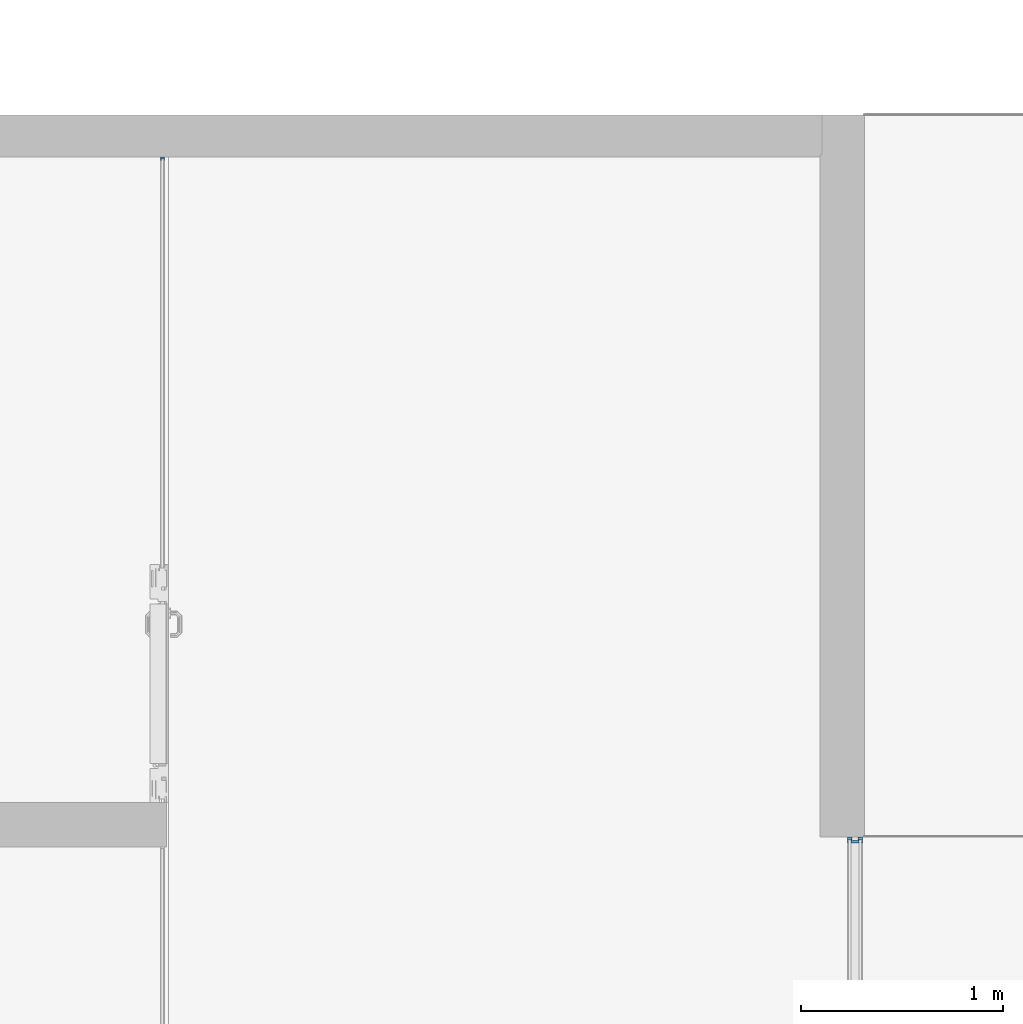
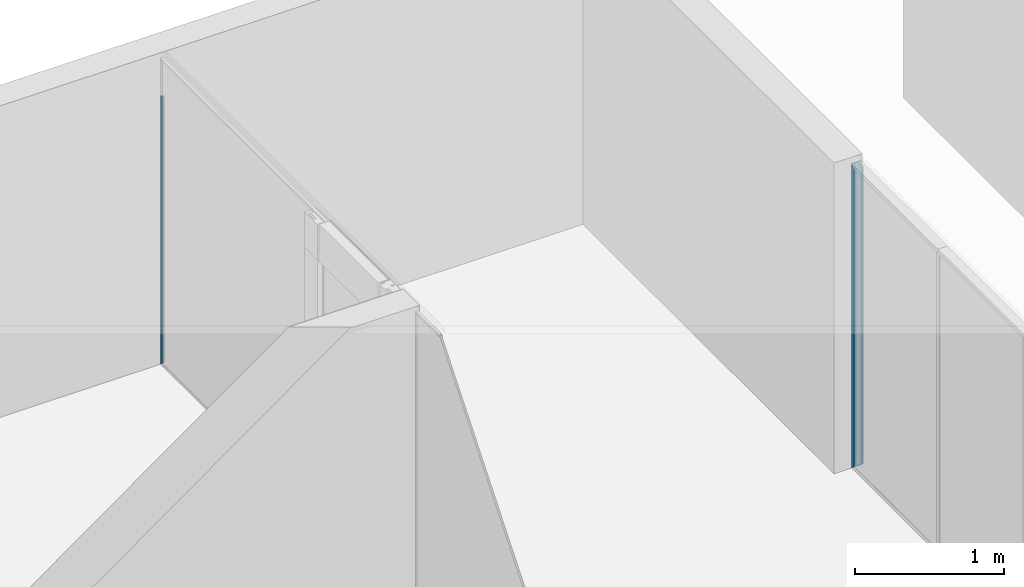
# One storey, part 10 of 79: 2 members, 2 elements without a shape of their own.
"""IFC2X3 building model written with IfcOpenShell, lengths in millimetres."""

from ifc_helpers import new_model, entity, si_unit, converted_unit, derived_unit, money_unit, direction, frame, origin_with_axes, place, context, subcontext, project, spatial, faceted_brep, source, transform, mapped, material, material_list, type_object, element, aggregate, save


model = new_model("IFC2X3")

# Units and contexts
model_context = context("Model", 3, precision=0.01, world=origin_with_axes(), true_north=direction((0.0, 1.0)))
body_context = subcontext(model_context, "Body", "Model", "MODEL_VIEW")
ifc_project = project(units=[si_unit("LENGTHUNIT", "METRE", prefix="MILLI"), si_unit("AREAUNIT", "SQUARE_METRE"), si_unit("VOLUMEUNIT", "CUBIC_METRE"), converted_unit("PLANEANGLEUNIT", "DEGREE", entity("IfcPlaneAngleMeasure", 0.0174532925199), si_unit("PLANEANGLEUNIT", "RADIAN"), dimensions=[0, 0, 0, 0, 0, 0, 0]), si_unit("SOLIDANGLEUNIT", "STERADIAN"), money_unit("EUR"), converted_unit("TIMEUNIT", "Year", entity("IfcTimeMeasure", 31556926.0), si_unit("TIMEUNIT", "SECOND"), dimensions=[0, 0, 1, 0, 0, 0, 0]), si_unit("MASSUNIT", "GRAM", prefix="KILO"), si_unit("THERMODYNAMICTEMPERATUREUNIT", "DEGREE_CELSIUS"), si_unit("LUMINOUSINTENSITYUNIT", "LUMEN"), si_unit("ENERGYUNIT", "JOULE", prefix="MEGA"), derived_unit("THERMALCONDUCTANCEUNIT", [(si_unit("POWERUNIT", "WATT"), 1), (si_unit("LENGTHUNIT", "METRE"), -1), (si_unit("THERMODYNAMICTEMPERATUREUNIT", "KELVIN"), -1)]), derived_unit("SPECIFICHEATCAPACITYUNIT", [(si_unit("ENERGYUNIT", "JOULE"), 1), (si_unit("MASSUNIT", "GRAM", prefix="KILO"), -1), (si_unit("THERMODYNAMICTEMPERATUREUNIT", "KELVIN"), -1)]), derived_unit("MASSDENSITYUNIT", [(si_unit("MASSUNIT", "GRAM", prefix="KILO"), 1), (si_unit("VOLUMEUNIT", "CUBIC_METRE"), -1)])], contexts=[model_context])

# Site, building, storey
site_placement = place(None, origin_with_axes())
site = spatial("IfcSite", under=ifc_project, at=site_placement, Name="L.Koidula tn 11b", CompositionType="ELEMENT")
building_placement = place(site_placement, origin_with_axes())
building = spatial("IfcBuilding", under=site, at=building_placement, Name="Rakvere Riigigümnaasium", CompositionType="ELEMENT")
storey_placement = place(building_placement, frame((0.0, 0.0, 3720.0), z_axis=(0.0, 0.0, 1.0), x_axis=(1.0, 0.0, 0.0)))
storey = spatial("IfcBuildingStorey", under=building, at=storey_placement, Name="2.korrus +3,72", CompositionType="ELEMENT", Elevation=3720.0)

# Curtain wall, member
curtain_wall_type = type_object("IfcCurtainWallType", Name="Curtain Wall Type", PredefinedType="NOTDEFINED")
curtain_wall_1_placement = place(storey_placement, frame((41130.915445, 28609.9592257, 0.0), z_axis=(0.0, 0.0, 1.0), x_axis=(1.0, 0.0, 0.0)))
curtain_wall_1 = element("IfcCurtainWall", 1, at=curtain_wall_1_placement, inside=storey, type_object=curtain_wall_type, Name="SKLF-16")
ifc_material_1 = material(Name="Klaasvill")
ifc_material_2 = material(Name="Alumiiniumprofiil")
ifc_material_list_1 = material_list([ifc_material_1, ifc_material_2])
member_type_1 = type_object("IfcMemberType", Name="Boundary Frame 17 x 1", PredefinedType="MULLION")
shared_shape_1 = source(origin_with_axes(), body_context, "Body", "Brep", [
    faceted_brep([(-8.35001937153, -5.0, 8.35001937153), (-2.00001937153, -5.0, 2.00001937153), (-2.00001937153, -5.0, 2200.0), (-8.35001937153, -5.0, 2200.0), (-8.35001937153, 9.01614452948, 8.35001937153), (-2.00001937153, 9.01614452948, 2.00001937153), (-2.00001937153, 9.01614452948, 2200.0), (-8.35001937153, 9.01614452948, 2200.0)], [[[0, 1, 2, 3]], [[1, 0, 4, 5]], [[1, 5, 6, 2]], [[2, 6, 7, 3]], [[4, 0, 3, 7]], [[5, 4, 7, 6]]]),
    faceted_brep([(-12.004489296, 7.03075035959, 12.004489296), (-11.987414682, 9.01614444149, 11.987414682), (-11.987414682, 9.01614444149, 2200.0), (-12.004489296, 7.03075035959, 2200.0), (-12.742237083, 6.29300257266, 12.742237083), (-13.7500193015, 6.02296814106, 13.7500193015), (-14.75780152, 6.29300257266, 14.75780152), (-15.4955493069, 7.03075035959, 15.4955493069), (-15.7655837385, 8.03853257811, 15.7655837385), (-15.5126239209, 9.01614444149, 15.5126239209), (-15.5126239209, 9.01614444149, 2200.0), (-15.7655837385, 8.03853257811, 2200.0), (-15.4955493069, 7.03075035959, 2200.0), (-14.75780152, 6.29300257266, 2200.0), (-13.7500193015, 6.02296814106, 2200.0), (-12.742237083, 6.29300257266, 2200.0)], [[[0, 1, 2, 3]], [[1, 0, 4, 5, 6, 7, 8, 9]], [[1, 9, 10, 2]], [[2, 10, 11, 12, 13, 14, 15, 3]], [[4, 0, 3, 15]], [[5, 4, 15, 14]], [[6, 5, 14, 13]], [[7, 6, 13, 12]], [[8, 7, 12, 11]], [[9, 8, 11, 10]]]),
    faceted_brep([(-17.0000193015, -8.0, 17.0000193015), (0.0, -8.0, 0.0), (0.0, -8.0, 2200.0), (-17.0000193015, -8.0, 2200.0), (-17.0000193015, -5.0, 17.0000193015), (-8.35001937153, -5.0, 8.35001937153), (-2.00001930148, -5.0, 2.00001930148), (-2.00001930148, 9.01614444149, 2.00001930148), (-8.35001937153, 9.01614452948, 8.35001937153), (-11.987414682, 9.01614444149, 11.987414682), (-15.5126239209, 9.01614444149, 15.5126239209), (-17.0000193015, 9.01614444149, 17.0000193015), (-17.0000193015, 12.0, 17.0000193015), (0.0, 12.0, 0.0), (0.0, 12.0, 2200.0), (-17.0000193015, 12.0, 2200.0), (-17.0000193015, 9.01614444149, 2200.0), (-15.5126239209, 9.01614444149, 2200.0), (-11.987414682, 9.01614444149, 2200.0), (-8.35001937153, 9.01614452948, 2200.0), (-2.00001930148, 9.01614444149, 2200.0), (-2.00001930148, -5.0, 2200.0), (-8.35001937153, -5.0, 2200.0), (-17.0000193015, -5.0, 2200.0)], [[[0, 1, 2, 3]], [[1, 0, 4, 5, 6, 7, 8, 9, 10, 11, 12, 13]], [[1, 13, 14, 2]], [[2, 14, 15, 16, 17, 18, 19, 20, 21, 22, 23, 3]], [[4, 0, 3, 23]], [[5, 4, 23, 22]], [[6, 5, 22, 21]], [[7, 6, 21, 20]], [[8, 7, 20, 19]], [[9, 8, 19, 18]], [[10, 9, 18, 17]], [[11, 10, 17, 16]], [[12, 11, 16, 15]], [[13, 12, 15, 14]]]),
])
member_1_placement = place(curtain_wall_1_placement, frame((0.112948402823, 2680.49749378, 0.0), z_axis=(0.0, 0.0, 1.0), x_axis=(-4.21371043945e-05, -0.999999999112, 0.0)))
member_1 = element("IfcMember", 2, at=member_1_placement, type_object=member_type_1, material=ifc_material_list_1, Name="PV-SKLF-41-raam", ObjectType="MULLION", context=body_context, shape_type="MappedRepresentation", body=[
    mapped(shared_shape_1, transform((0.0, 0.0, 0.0), x_axis=(-1.0, 0.0, 0.0), y_axis=(0.0, -1.0, 0.0), z_axis=(0.0, 0.0, 1.0))),
])
aggregate(curtain_wall_1, [member_1])

curtain_wall_2_placement = place(storey_placement, frame((44568.0000786, 20404.7190306, -3.55964617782e-05), z_axis=(0.0, 0.0, 1.0), x_axis=(1.0, 0.0, 0.0)))
curtain_wall_2 = element("IfcCurtainWall", 3, at=curtain_wall_2_placement, inside=storey, type_object=curtain_wall_type, Name="SKLF-17")
ifc_material_3 = material(Name="Teras RAL7012")
ifc_material_list_2 = material_list([ifc_material_1, ifc_material_3])
member_type_2 = type_object("IfcMemberType", Name="Boundary Frame 30 x 42", PredefinedType="MULLION")
shared_shape_2 = source(origin_with_axes(), body_context, "Body", "Brep", [
    faceted_brep([(13.8499999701, 15.000000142, 13.8499999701), (13.8499999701, 15.000000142, 2479.15003563), (7.49999990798, 15.000000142, 2485.50003569), (7.49999990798, 15.000000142, 7.49999990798), (13.8499999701, 29.0161444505, 13.8499999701), (13.8499999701, 29.0161444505, 2479.15003563), (7.49999990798, 29.0161444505, 2485.50003569), (7.49999990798, 29.0161444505, 7.49999990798)], [[[0, 1, 2, 3]], [[4, 5, 1, 0]], [[2, 1, 5, 6]], [[3, 2, 6, 7]], [[3, 7, 4, 0]], [[7, 6, 5, 4]]]),
    faceted_brep([(25.004489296, 27.0307503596, 25.004489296), (25.004489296, 27.0307503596, 2467.9955463), (24.987414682, 29.0161444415, 2468.01262091), (24.987414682, 29.0161444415, 24.987414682), (25.742237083, 26.2930025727, 25.742237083), (25.742237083, 26.2930025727, 2467.25779851), (26.7500193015, 26.0229681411, 2466.25001629), (27.75780152, 26.2930025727, 2465.24223408), (28.4955493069, 27.0307503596, 2464.50448629), (28.7655837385, 28.0385325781, 2464.23445186), (28.5126239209, 29.0161444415, 2464.48741168), (28.5126239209, 29.0161444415, 28.5126239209), (28.7655837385, 28.0385325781, 28.7655837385), (28.4955493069, 27.0307503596, 28.4955493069), (27.75780152, 26.2930025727, 27.75780152), (26.7500193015, 26.0229681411, 26.7500193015)], [[[0, 1, 2, 3]], [[4, 5, 1, 0]], [[2, 1, 5, 6, 7, 8, 9, 10]], [[3, 2, 10, 11]], [[3, 11, 12, 13, 14, 15, 4, 0]], [[15, 6, 5, 4]], [[14, 7, 6, 15]], [[13, 8, 7, 14]], [[12, 9, 8, 13]], [[11, 10, 9, 12]]]),
    faceted_brep([(7.49999990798, -39.0161445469, 7.49999990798), (7.49999990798, -39.0161445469, 2485.50003569), (7.49999990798, -24.9999997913, 2485.50003569), (7.49999990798, -24.9999997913, 7.49999990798), (13.8499999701, -39.0161445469, 13.8499999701), (13.8499999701, -39.0161445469, 2479.15003563), (13.8499999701, -24.9999997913, 2479.15003563), (13.8499999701, -24.9999997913, 13.8499999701)], [[[0, 1, 2, 3]], [[4, 5, 1, 0]], [[2, 1, 5, 6]], [[3, 2, 6, 7]], [[3, 7, 4, 0]], [[7, 6, 5, 4]]]),
    faceted_brep([(24.987414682, -39.0161444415, 24.987414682), (24.987414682, -39.0161444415, 2468.01262091), (25.004489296, -37.0307503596, 2467.9955463), (25.004489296, -37.0307503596, 25.004489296), (28.5126239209, -39.0161444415, 28.5126239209), (28.5126239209, -39.0161444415, 2464.48741168), (28.7655837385, -38.0385325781, 2464.23445186), (28.4955493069, -37.0307503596, 2464.50448629), (27.75780152, -36.2930025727, 2465.24223408), (26.7500193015, -36.0229681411, 2466.25001629), (25.742237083, -36.2930025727, 2467.25779851), (25.742237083, -36.2930025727, 25.742237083), (26.7500193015, -36.0229681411, 26.7500193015), (27.75780152, -36.2930025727, 27.75780152), (28.4955493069, -37.0307503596, 28.4955493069), (28.7655837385, -38.0385325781, 28.7655837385)], [[[0, 1, 2, 3]], [[4, 5, 1, 0]], [[2, 1, 5, 6, 7, 8, 9, 10]], [[3, 2, 10, 11]], [[3, 11, 12, 13, 14, 15, 4, 0]], [[15, 6, 5, 4]], [[14, 7, 6, 15]], [[13, 8, 7, 14]], [[12, 9, 8, 13]], [[11, 10, 9, 12]]]),
    faceted_brep([(29.5999996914, -22.0000000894, 29.5999996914), (29.5999996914, -22.0000000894, 2463.40003591), (0.0, -22.0000000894, 2493.0000356), (0.0, -22.0000000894, 0.0), (29.5999996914, 12.0000000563, 29.5999996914), (29.5999996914, 12.0000000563, 2463.40003591), (0.0, 12.0000000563, 2493.0000356), (1.9999999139, 10.0000001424, 2491.00003568), (18.7999996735, 10.0000001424, 2474.20003592), (18.7999996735, -20.0000001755, 2474.20003592), (1.9999999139, -20.0000001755, 2491.00003568), (0.0, 12.0000000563, 0.0), (1.9999999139, 10.0000001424, 1.9999999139), (1.9999999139, -20.0000001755, 1.9999999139), (18.7999996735, -20.0000001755, 18.7999996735), (18.7999996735, 10.0000001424, 18.7999996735)], [[[0, 1, 2, 3]], [[4, 5, 1, 0]], [[2, 1, 5, 6], [7, 8, 9, 10]], [[3, 2, 6, 11]], [[3, 11, 4, 0], [12, 13, 14, 15]], [[11, 6, 5, 4]], [[15, 8, 7, 12]], [[14, 9, 8, 15]], [[13, 10, 9, 14]], [[12, 7, 10, 13]]]),
    faceted_brep([(29.5999996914, 12.0000000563, 29.5999996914), (29.5999996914, 12.0000000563, 2463.40003591), (0.0, 12.0, 2493.0000356), (0.0, 12.0, 0.0), (30.0000193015, 12.0, 30.0000193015), (30.0000193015, 12.0, 2463.00001629), (30.0000193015, 15.0, 2463.00001629), (13.8499999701, 15.000000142, 2479.15003563), (7.49999999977, 15.0, 2485.5000356), (7.49999999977, 29.0161444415, 2485.5000356), (13.8499999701, 29.0161444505, 2479.15003563), (24.987414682, 29.0161444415, 2468.01262091), (28.5126239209, 29.0161444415, 2464.48741168), (30.0000193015, 29.0161444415, 2463.00001629), (30.0000193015, 32.0, 2463.00001629), (0.0, 32.0, 2493.0000356), (0.0, 32.0, 0.0), (30.0000193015, 32.0, 30.0000193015), (30.0000193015, 29.0161444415, 30.0000193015), (28.5126239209, 29.0161444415, 28.5126239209), (24.987414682, 29.0161444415, 24.987414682), (13.8499999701, 29.0161444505, 13.8499999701), (7.49999999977, 29.0161444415, 7.49999999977), (7.49999999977, 15.0, 7.49999999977), (13.8499999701, 15.000000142, 13.8499999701), (30.0000193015, 15.0, 30.0000193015)], [[[0, 1, 2, 3]], [[4, 5, 1, 0]], [[2, 1, 5, 6, 7, 8, 9, 10, 11, 12, 13, 14, 15]], [[3, 2, 15, 16]], [[3, 16, 17, 18, 19, 20, 21, 22, 23, 24, 25, 4, 0]], [[25, 6, 5, 4]], [[24, 7, 6, 25]], [[23, 8, 7, 24]], [[22, 9, 8, 23]], [[21, 10, 9, 22]], [[20, 11, 10, 21]], [[19, 12, 11, 20]], [[18, 13, 12, 19]], [[17, 14, 13, 18]], [[16, 15, 14, 17]]]),
    faceted_brep([(0.0, -42.0, 0.0), (0.0, -42.0, 2493.0000356), (0.0, -22.0, 2493.0000356), (0.0, -22.0, 0.0), (30.0000193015, -42.0, 30.0000193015), (30.0000193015, -42.0, 2463.00001629), (30.0000193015, -39.0161444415, 2463.00001629), (28.5126239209, -39.0161444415, 2464.48741168), (24.987414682, -39.0161444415, 2468.01262091), (13.8499999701, -39.0161445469, 2479.15003563), (7.49999999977, -39.0161444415, 2485.5000356), (7.49999999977, -25.0, 2485.5000356), (13.8499999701, -24.9999997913, 2479.15003563), (30.0000193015, -25.0, 2463.00001629), (30.0000193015, -22.0, 2463.00001629), (29.5999996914, -22.0000000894, 2463.40003591), (29.5999996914, -22.0000000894, 29.5999996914), (30.0000193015, -22.0, 30.0000193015), (30.0000193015, -25.0, 30.0000193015), (13.8499999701, -24.9999997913, 13.8499999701), (7.49999999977, -25.0, 7.49999999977), (7.49999999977, -39.0161444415, 7.49999999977), (13.8499999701, -39.0161445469, 13.8499999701), (24.987414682, -39.0161444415, 24.987414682), (28.5126239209, -39.0161444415, 28.5126239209), (30.0000193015, -39.0161444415, 30.0000193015)], [[[0, 1, 2, 3]], [[4, 5, 1, 0]], [[2, 1, 5, 6, 7, 8, 9, 10, 11, 12, 13, 14, 15]], [[3, 2, 15, 16]], [[3, 16, 17, 18, 19, 20, 21, 22, 23, 24, 25, 4, 0]], [[25, 6, 5, 4]], [[24, 7, 6, 25]], [[23, 8, 7, 24]], [[22, 9, 8, 23]], [[21, 10, 9, 22]], [[20, 11, 10, 21]], [[19, 12, 11, 20]], [[18, 13, 12, 19]], [[17, 14, 13, 18]], [[16, 15, 14, 17]]]),
])
member_2_placement = place(curtain_wall_2_placement, frame((0.0, 7515.5364552, 0.0), z_axis=(0.0, 0.0, 1.0), x_axis=(0.0, -1.0, 0.0)))
member_2 = element("IfcMember", 4, at=member_2_placement, type_object=member_type_2, material=ifc_material_list_2, Name="SKLF-74-raam", ObjectType="MULLION", context=body_context, shape_type="MappedRepresentation", body=[
    mapped(shared_shape_2, transform((0.0, 0.0, 0.0))),
])
aggregate(curtain_wall_2, [member_2])

save(model, "model.ifc")
